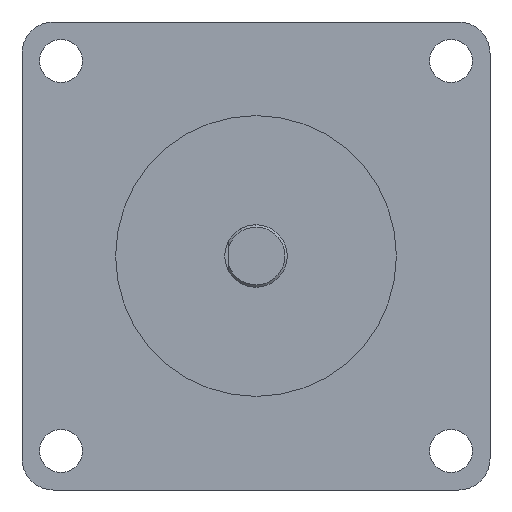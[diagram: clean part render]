
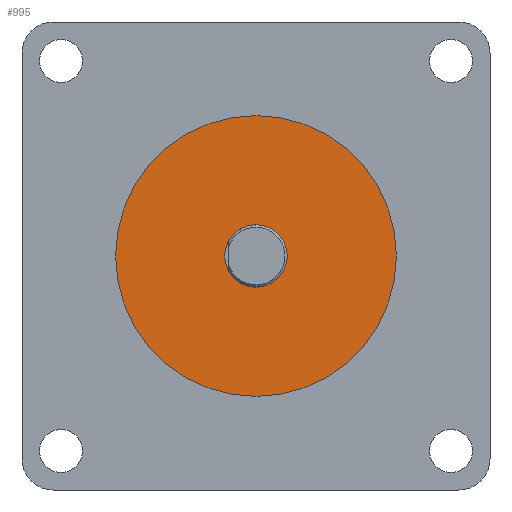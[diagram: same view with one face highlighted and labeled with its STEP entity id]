
A CAD part, left-side view. The second image highlights one B-rep face of the part: STEP entity #995.
In plain terms, the highlighted planar face has unit normal (-1, 0, 0).
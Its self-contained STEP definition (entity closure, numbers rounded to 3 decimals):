
#62 = CARTESIAN_POINT ( 'NONE',  ( -1.5, 0., -4. ) ) ;
#84 = DIRECTION ( 'NONE',  ( -1., 0., 0. ) ) ;
#156 = DIRECTION ( 'NONE',  ( -1., 0., 0. ) ) ;
#165 = EDGE_LOOP ( 'NONE', ( #3062, #2002 ) ) ;
#254 = ORIENTED_EDGE ( 'NONE', *, *, #1768, .T. ) ;
#278 = DIRECTION ( 'NONE',  ( 0., 0., 1. ) ) ;
#332 = VERTEX_POINT ( 'NONE', #62 ) ;
#381 = AXIS2_PLACEMENT_3D ( 'NONE', #2000, #1644, #1305 ) ;
#408 = EDGE_CURVE ( 'NONE', #332, #746, #1476, .T. ) ;
#446 = AXIS2_PLACEMENT_3D ( 'NONE', #526, #156, #3264 ) ;
#463 = CIRCLE ( 'NONE', #446, 18. ) ;
#526 = CARTESIAN_POINT ( 'NONE',  ( -1.5, 0., 0. ) ) ;
#626 = DIRECTION ( 'NONE',  ( -1., 0., 0. ) ) ;
#746 = VERTEX_POINT ( 'NONE', #2590 ) ;
#816 = DIRECTION ( 'NONE',  ( 0., 0., 1. ) ) ;
#847 = EDGE_LOOP ( 'NONE', ( #254, #1234 ) ) ;
#972 = CARTESIAN_POINT ( 'NONE',  ( -1.5, 0., 0. ) ) ;
#995 = ADVANCED_FACE ( 'NONE', ( #2417, #2265 ), #1324, .T. ) ;
#1148 = DIRECTION ( 'NONE',  ( -1., 0., 0. ) ) ;
#1234 = ORIENTED_EDGE ( 'NONE', *, *, #1465, .T. ) ;
#1305 = DIRECTION ( 'NONE',  ( 0., 0., 1. ) ) ;
#1324 = PLANE ( 'NONE',  #2594 ) ;
#1408 = VERTEX_POINT ( 'NONE', #2372 ) ;
#1465 = EDGE_CURVE ( 'NONE', #1807, #1408, #1785, .T. ) ;
#1476 = CIRCLE ( 'NONE', #381, 4. ) ;
#1495 = CARTESIAN_POINT ( 'NONE',  ( -1.5, 0., 0. ) ) ;
#1505 = CARTESIAN_POINT ( 'NONE',  ( -1.5, 0., 0. ) ) ;
#1644 = DIRECTION ( 'NONE',  ( -1., 0., 0. ) ) ;
#1768 = EDGE_CURVE ( 'NONE', #1408, #1807, #463, .T. ) ;
#1785 = CIRCLE ( 'NONE', #1937, 18. ) ;
#1807 = VERTEX_POINT ( 'NONE', #2715 ) ;
#1937 = AXIS2_PLACEMENT_3D ( 'NONE', #1505, #1148, #816 ) ;
#1974 = CIRCLE ( 'NONE', #3404, 4. ) ;
#2000 = CARTESIAN_POINT ( 'NONE',  ( -1.5, 0., 0. ) ) ;
#2002 = ORIENTED_EDGE ( 'NONE', *, *, #3452, .F. ) ;
#2265 = FACE_BOUND ( 'NONE', #165, .T. ) ;
#2372 = CARTESIAN_POINT ( 'NONE',  ( -1.5, 0., -18. ) ) ;
#2417 = FACE_OUTER_BOUND ( 'NONE', #847, .T. ) ;
#2590 = CARTESIAN_POINT ( 'NONE',  ( -1.5, 0., 4. ) ) ;
#2594 = AXIS2_PLACEMENT_3D ( 'NONE', #972, #626, #278 ) ;
#2715 = CARTESIAN_POINT ( 'NONE',  ( -1.5, 0., 18. ) ) ;
#3062 = ORIENTED_EDGE ( 'NONE', *, *, #408, .F. ) ;
#3198 = DIRECTION ( 'NONE',  ( 0., 0., 1. ) ) ;
#3264 = DIRECTION ( 'NONE',  ( 0., 0., 1. ) ) ;
#3404 = AXIS2_PLACEMENT_3D ( 'NONE', #1495, #84, #3198 ) ;
#3452 = EDGE_CURVE ( 'NONE', #746, #332, #1974, .T. ) ;
